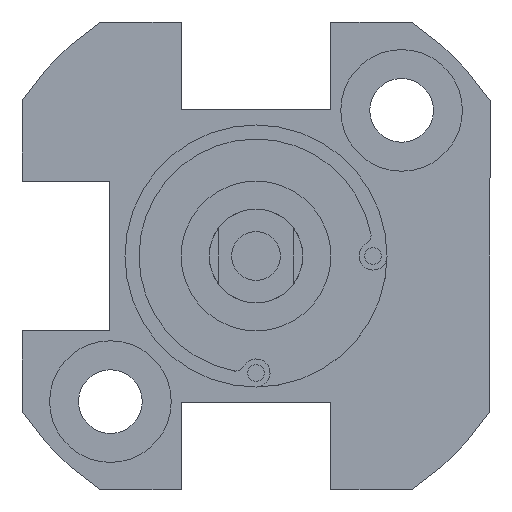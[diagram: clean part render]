
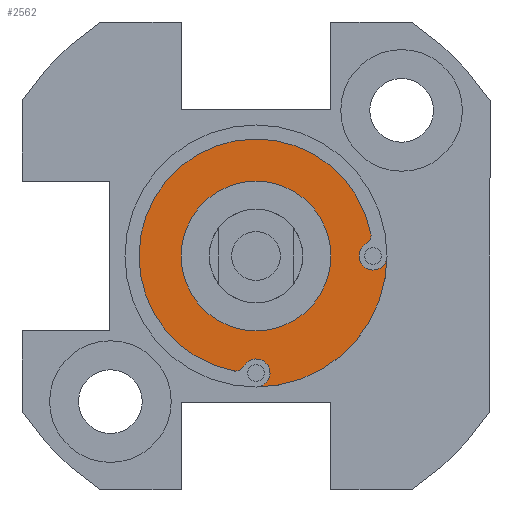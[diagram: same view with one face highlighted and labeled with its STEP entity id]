
A CAD part, front view. The second image highlights one B-rep face of the part: STEP entity #2562.
In plain terms, the highlighted planar face has unit normal (0, -1, 0).
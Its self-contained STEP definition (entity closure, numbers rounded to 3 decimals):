
#49 = DIRECTION ( 'NONE',  ( 0., -1., 0. ) ) ;
#125 = CIRCLE ( 'NONE', #863, 4. ) ;
#137 = CARTESIAN_POINT ( 'NONE',  ( 6.25, -40., 0. ) ) ;
#147 = ORIENTED_EDGE ( 'NONE', *, *, #341, .F. ) ;
#260 = EDGE_CURVE ( 'NONE', #2081, #2074, #1804, .T. ) ;
#291 = AXIS2_PLACEMENT_3D ( 'NONE', #2426, #2416, #1686 ) ;
#323 = CARTESIAN_POINT ( 'NONE',  ( 0., -40., 0. ) ) ;
#341 = EDGE_CURVE ( 'NONE', #1221, #2940, #1255, .T. ) ;
#389 = CARTESIAN_POINT ( 'NONE',  ( 6.25, -40., -0.75 ) ) ;
#480 = EDGE_CURVE ( 'NONE', #2421, #1168, #651, .T. ) ;
#540 = DIRECTION ( 'NONE',  ( 0., 0., -1. ) ) ;
#592 = CARTESIAN_POINT ( 'NONE',  ( 0., -40., -7. ) ) ;
#621 = VERTEX_POINT ( 'NONE', #389 ) ;
#641 = CARTESIAN_POINT ( 'NONE',  ( -1.094, -40., -6.145 ) ) ;
#645 = AXIS2_PLACEMENT_3D ( 'NONE', #2436, #2694, #540 ) ;
#651 = CIRCLE ( 'NONE', #1089, 7. ) ;
#691 = ORIENTED_EDGE ( 'NONE', *, *, #757, .T. ) ;
#730 = ORIENTED_EDGE ( 'NONE', *, *, #2462, .T. ) ;
#736 = AXIS2_PLACEMENT_3D ( 'NONE', #2124, #2082, #1353 ) ;
#756 = AXIS2_PLACEMENT_3D ( 'NONE', #323, #2566, #2048 ) ;
#757 = EDGE_CURVE ( 'NONE', #2421, #621, #1690, .T. ) ;
#765 = EDGE_LOOP ( 'NONE', ( #950, #3134 ) ) ;
#838 = CARTESIAN_POINT ( 'NONE',  ( 7., -40., 0. ) ) ;
#858 = VERTEX_POINT ( 'NONE', #2532 ) ;
#863 = AXIS2_PLACEMENT_3D ( 'NONE', #2674, #941, #2683 ) ;
#865 = ORIENTED_EDGE ( 'NONE', *, *, #1864, .T. ) ;
#941 = DIRECTION ( 'NONE',  ( 0., 1., 0. ) ) ;
#950 = ORIENTED_EDGE ( 'NONE', *, *, #2790, .T. ) ;
#979 = AXIS2_PLACEMENT_3D ( 'NONE', #137, #1105, #1877 ) ;
#994 = VERTEX_POINT ( 'NONE', #2751 ) ;
#1029 = CARTESIAN_POINT ( 'NONE',  ( -1.094, -40., -5.645 ) ) ;
#1040 = CARTESIAN_POINT ( 'NONE',  ( -1.094, -40., -5.645 ) ) ;
#1060 = DIRECTION ( 'NONE',  ( 0., 0., 1. ) ) ;
#1089 = AXIS2_PLACEMENT_3D ( 'NONE', #2807, #2286, #1060 ) ;
#1105 = DIRECTION ( 'NONE',  ( 0., 1., 0. ) ) ;
#1168 = VERTEX_POINT ( 'NONE', #592 ) ;
#1200 = CIRCLE ( 'NONE', #645, 0.5 ) ;
#1221 = VERTEX_POINT ( 'NONE', #2589 ) ;
#1255 = CIRCLE ( 'NONE', #756, 6.25 ) ;
#1280 = FACE_BOUND ( 'NONE', #765, .T. ) ;
#1284 = DIRECTION ( 'NONE',  ( 0., 0., -1. ) ) ;
#1352 = AXIS2_PLACEMENT_3D ( 'NONE', #1040, #49, #1284 ) ;
#1353 = DIRECTION ( 'NONE',  ( 0., 0., 1. ) ) ;
#1367 = FACE_OUTER_BOUND ( 'NONE', #1548, .T. ) ;
#1374 = CARTESIAN_POINT ( 'NONE',  ( 5.887, -40., 0.656 ) ) ;
#1432 = CARTESIAN_POINT ( 'NONE',  ( 0., -40., -6.25 ) ) ;
#1529 = ORIENTED_EDGE ( 'NONE', *, *, #3120, .T. ) ;
#1548 = EDGE_LOOP ( 'NONE', ( #691, #730, #2119, #147, #865, #2656, #1529, #2804 ) ) ;
#1686 = DIRECTION ( 'NONE',  ( 0., 0., 1. ) ) ;
#1690 = CIRCLE ( 'NONE', #2881, 0.75 ) ;
#1742 = CARTESIAN_POINT ( 'NONE',  ( 6.136, -40., 1.189 ) ) ;
#1804 = CIRCLE ( 'NONE', #1352, 0.5 ) ;
#1864 = EDGE_CURVE ( 'NONE', #1221, #2081, #2892, .T. ) ;
#1877 = DIRECTION ( 'NONE',  ( 0., 0., 1. ) ) ;
#1924 = DIRECTION ( 'NONE',  ( 0., 0., 1. ) ) ;
#1992 = DIRECTION ( 'NONE',  ( 0., -1., 0. ) ) ;
#2008 = AXIS2_PLACEMENT_3D ( 'NONE', #1432, #3171, #1924 ) ;
#2048 = DIRECTION ( 'NONE',  ( 0., 0., 1. ) ) ;
#2074 = VERTEX_POINT ( 'NONE', #3068 ) ;
#2081 = VERTEX_POINT ( 'NONE', #641 ) ;
#2082 = DIRECTION ( 'NONE',  ( 0., -1., 0. ) ) ;
#2119 = ORIENTED_EDGE ( 'NONE', *, *, #2863, .T. ) ;
#2124 = CARTESIAN_POINT ( 'NONE',  ( 0., -40., 0. ) ) ;
#2286 = DIRECTION ( 'NONE',  ( 0., 1., 0. ) ) ;
#2397 = CIRCLE ( 'NONE', #2008, 0.75 ) ;
#2416 = DIRECTION ( 'NONE',  ( 0., 1., 0. ) ) ;
#2421 = VERTEX_POINT ( 'NONE', #838 ) ;
#2426 = CARTESIAN_POINT ( 'NONE',  ( 0., -40., 0. ) ) ;
#2436 = CARTESIAN_POINT ( 'NONE',  ( 5.645, -40., 1.094 ) ) ;
#2462 = EDGE_CURVE ( 'NONE', #621, #2588, #2685, .T. ) ;
#2501 = CARTESIAN_POINT ( 'NONE',  ( 6.25, -40., 0. ) ) ;
#2532 = CARTESIAN_POINT ( 'NONE',  ( 0., -40., 4. ) ) ;
#2562 = ADVANCED_FACE ( 'NONE', ( #1367, #1280 ), #2855, .T. ) ;
#2566 = DIRECTION ( 'NONE',  ( 0., 1., 0. ) ) ;
#2588 = VERTEX_POINT ( 'NONE', #1374 ) ;
#2589 = CARTESIAN_POINT ( 'NONE',  ( -1.189, -40., -6.136 ) ) ;
#2642 = EDGE_CURVE ( 'NONE', #858, #994, #125, .T. ) ;
#2656 = ORIENTED_EDGE ( 'NONE', *, *, #260, .T. ) ;
#2674 = CARTESIAN_POINT ( 'NONE',  ( 0., -40., 0. ) ) ;
#2683 = DIRECTION ( 'NONE',  ( 0., 0., 1. ) ) ;
#2685 = CIRCLE ( 'NONE', #979, 0.75 ) ;
#2694 = DIRECTION ( 'NONE',  ( 0., -1., 0. ) ) ;
#2751 = CARTESIAN_POINT ( 'NONE',  ( 0., -40., -4. ) ) ;
#2790 = EDGE_CURVE ( 'NONE', #994, #858, #2916, .T. ) ;
#2792 = DIRECTION ( 'NONE',  ( 0., 0., 1. ) ) ;
#2793 = AXIS2_PLACEMENT_3D ( 'NONE', #1029, #1992, #2986 ) ;
#2804 = ORIENTED_EDGE ( 'NONE', *, *, #480, .F. ) ;
#2807 = CARTESIAN_POINT ( 'NONE',  ( 0., -40., 0. ) ) ;
#2855 = PLANE ( 'NONE',  #736 ) ;
#2863 = EDGE_CURVE ( 'NONE', #2588, #2940, #1200, .T. ) ;
#2881 = AXIS2_PLACEMENT_3D ( 'NONE', #2501, #3017, #2792 ) ;
#2892 = CIRCLE ( 'NONE', #2793, 0.5 ) ;
#2916 = CIRCLE ( 'NONE', #291, 4. ) ;
#2940 = VERTEX_POINT ( 'NONE', #1742 ) ;
#2986 = DIRECTION ( 'NONE',  ( 0., 0., -1. ) ) ;
#3017 = DIRECTION ( 'NONE',  ( 0., 1., 0. ) ) ;
#3068 = CARTESIAN_POINT ( 'NONE',  ( -0.656, -40., -5.887 ) ) ;
#3120 = EDGE_CURVE ( 'NONE', #2074, #1168, #2397, .T. ) ;
#3134 = ORIENTED_EDGE ( 'NONE', *, *, #2642, .T. ) ;
#3171 = DIRECTION ( 'NONE',  ( 0., 1., 0. ) ) ;
